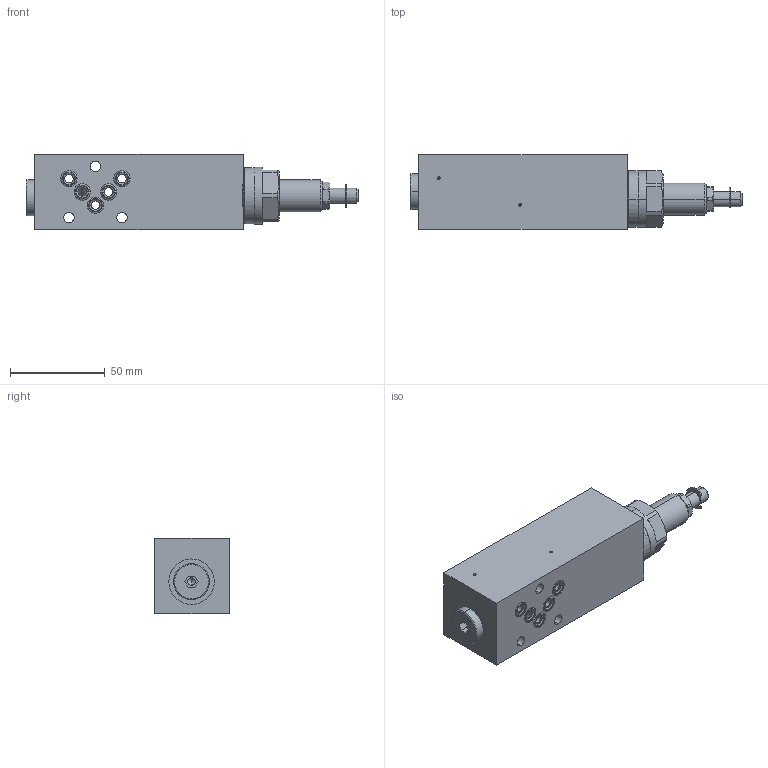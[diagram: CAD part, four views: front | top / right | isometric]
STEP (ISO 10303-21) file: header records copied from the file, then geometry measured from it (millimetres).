
FILE_DESCRIPTION (( 'STEP AP214' ), '1' );
FILE_NAME ('USSSA04-P.STEP', '2017-03-23T07:03:08', ( '' ), ( '' ), 'SwSTEP 2.0', 'SolidWorks 2016', '' );
FILE_SCHEMA (( 'AUTOMOTIVE_DESIGN' ));
Length unit declared in the file: millimetre
Products named in the file (1): USSSA04-P
Bounding box: 175.4 x 39.5 x 40 mm (x, y, z)
Volume: 186987.9 mm3; surface area: 32522.1 mm2
Topology: 10 solids, 15 shells, 388 faces, 907 edges, 551 vertices
Faces by surface type: cylinder 150, plane 96, cone 76, bspline 40, sphere 16, torus 10
Entity records: 16199 total; most frequent: CARTESIAN_POINT 3113, DIRECTION 1914, ORIENTED_EDGE 1766, EDGE_CURVE 883, AXIS2_PLACEMENT_3D 800, VERTEX_POINT 551, CIRCLE 451, EDGE_LOOP 440
